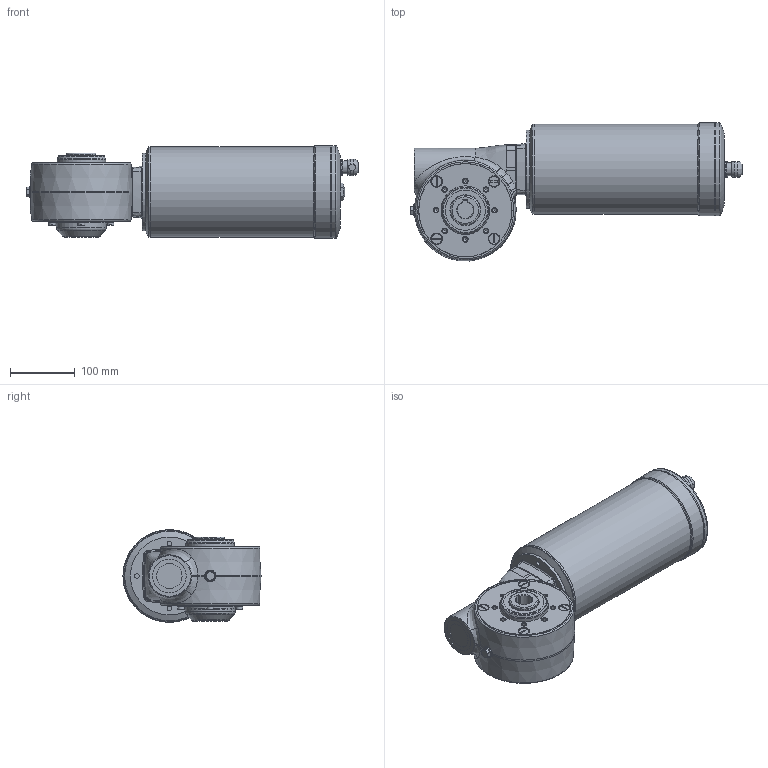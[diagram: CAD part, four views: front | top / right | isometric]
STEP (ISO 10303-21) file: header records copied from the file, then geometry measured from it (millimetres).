
FILE_DESCRIPTION( ( 'Unknown' ), '1' );
FILE_NAME( 'E:/services/configuratordownloads/customers/CLEANGEARTECH/VFN/download/6152D0C6EC30275DF32C8FF960E6AD74/STEP/6152D0C6EC30275DF32C8FF960E6AD74.3d.stp', 'Unknown', ( 'Unknown' ), ( 'Unknown' ), 'PSStep 10.1', 'Unknown', ' ' );
FILE_SCHEMA( ( 'AUTOMOTIVE_DESIGN { 1 0 10303 214 1 1 1 1 }' ) );
Length unit declared in the file: millimetre
Products named in the file (1): N638800
Bounding box: 511.8 x 212.76 x 143 mm (x, y, z)
Volume: 6724120.3 mm3; surface area: 320795.4 mm2
Topology: 1 solids, 23 shells, 564 faces, 1338 edges, 859 vertices
Faces by surface type: plane 204, cylinder 134, cone 124, bspline 60, torus 41, sphere 1
Full cylindrical faces by diameter (mm): 4.917 x9, 6.647 x20, 7 x5, 8 x8, 8.5 x4, 9 x4, 10.5 x4, 13 x4, 13.4 x1, 14 x4, 16.662 x1, 18 x1, 19 x1, 20 x1, 25 x1, 35 x1, 39 x1, 45 x2, 46 x2, 47 x1, 47.5 x2, 52 x1, 62 x2, 68 x1, 75 x2, 107 x1, 120 x1, 138.98 x1, 139 x2, 142.98 x2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
Entity records: 25498 total; most frequent: CARTESIAN_POINT 10056, DIRECTION 2257, ORIENTED_EDGE 1940, AXIS2_PLACEMENT_3D 1007, EDGE_CURVE 970, EDGE_LOOP 832, VERTEX_POINT 733, FACE_OUTER_BOUND 683
